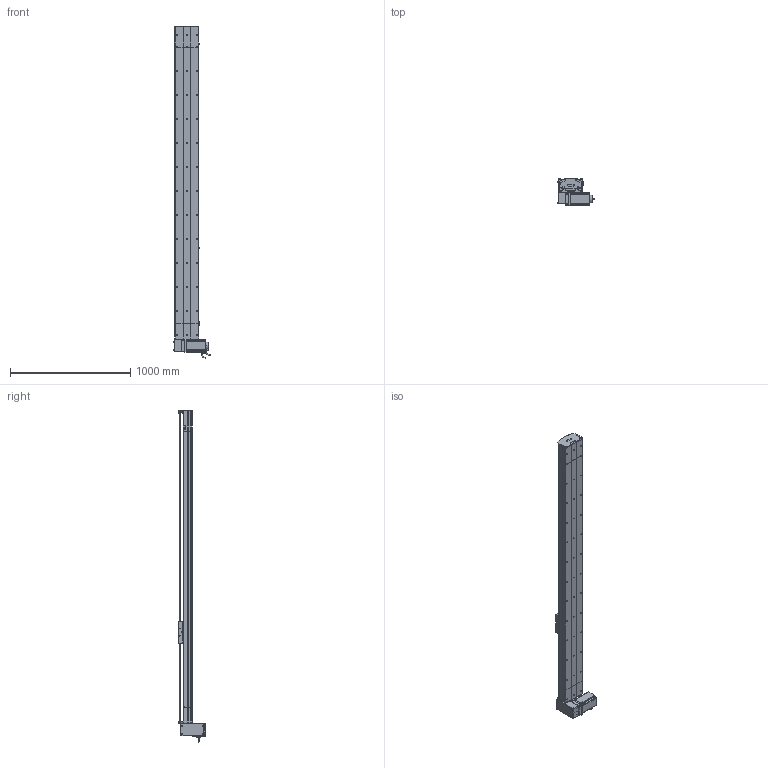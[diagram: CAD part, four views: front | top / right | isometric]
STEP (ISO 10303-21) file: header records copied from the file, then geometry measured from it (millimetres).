
FILE_DESCRIPTION (( 'STEP AP214' ), '1' );
FILE_NAME ('D20 TBH RU S2300.STEP', '2010-07-01T08:00:18', ( 'Conseil Régional Haute-Normandie' ), ( 'Conseil Régional Haute-Normandie' ), 'SwSTEP 2.0', 'SolidWorks 2010', '' );
FILE_SCHEMA (( 'AUTOMOTIVE_DESIGN' ));
Length unit declared in the file: millimetre
Products named in the file (40): rail head D20; corpl head D20_Default; head RU_Default; couvercle tail D20_Default; tail D20+100_Default; vis M8 L12_Default; clavette; Conecteur_Default; plaque de  bout tail D20_Default; poulie tail D20_Default; corpl tail D20 +100_Default; Couroie tail D20_Default; Conecteur2_Default; codeur 110BLDC170A-630x; corps 110BLDC170A-630x; Plaque racord D20LH_Default; Renvoi RU D20_Default; vis M5 L5_Default; avant 110BLDC170A-630x; Moteur motionking 110BLDC170A-640x; vis M5 L70_Default; couroie_Default; cache D20_Default; couvercle head D20_Default; cache arbre D20_Default; poulie head D20_Default; plaque de  bout head D20B RU_Default; rail tail D20; vis M5 L25_Default; vis M5 L12_Default; vis M5 L8 90°_Default; tete d''axe poulie D20B; couvercle D20 S2300_Default; rail + couroie  D20 S2300; Chariot D20B; chariot D20B_Default; D20 TBH RU S2300; corp D20 S2300_Default; Course B L2300_Default; guide D20B
Assembly tree (71 placements, depth 4):
  D20 TBH RU S2300
    chariot D20B_Default
      guide D20B  x2
      Chariot D20B
      vis M5 L12_Default  x4
    head RU_Default
      cache D20_Default  x2
      vis M5 L70_Default  x4
      Moteur motionking 110BLDC170A-640x
        Conecteur2_Default
        codeur 110BLDC170A-630x
        clavette
        avant 110BLDC170A-630x
        Conecteur_Default
        corps 110BLDC170A-630x
      vis M5 L12_Default  x10
      cache arbre D20_Default
      vis M8 L12_Default  x4
      Plaque racord D20LH_Default
      rail head D20
      vis M5 L5_Default  x4
      poulie head D20_Default
      Renvoi RU D20_Default
      corpl head D20_Default
      vis M5 L25_Default  x2
      couroie_Default
      plaque de  bout head D20B RU_Default
      couvercle head D20_Default
    Course B L2300_Default
      rail + couroie  D20 S2300
      couvercle D20 S2300_Default
      corp D20 S2300_Default
    tail D20+100_Default
      Couroie tail D20_Default
      plaque de  bout tail D20_Default
      corpl tail D20 +100_Default
      tete d''axe poulie D20B
      vis M5 L8 90°_Default  x2
      couvercle tail D20_Default
      vis M5 L12_Default  x4
      poulie tail D20_Default
      vis M5 L25_Default  x2
      rail tail D20
Bounding box: 304.2 x 223.2 x 2765 mm (x, y, z)
Volume: 22299909.8 mm3; surface area: 5423342.4 mm2
Topology: 95 solids, 95 shells, 2816 faces, 7188 edges, 4643 vertices
Faces by surface type: plane 1639, cylinder 853, bspline 136, cone 99, torus 89
Entity records: 90125 total; most frequent: CARTESIAN_POINT 29067, ORIENTED_EDGE 11032, DIRECTION 10385, EDGE_CURVE 5516, VERTEX_POINT 3629, VECTOR 3539, LINE 3539, AXIS2_PLACEMENT_3D 3423
